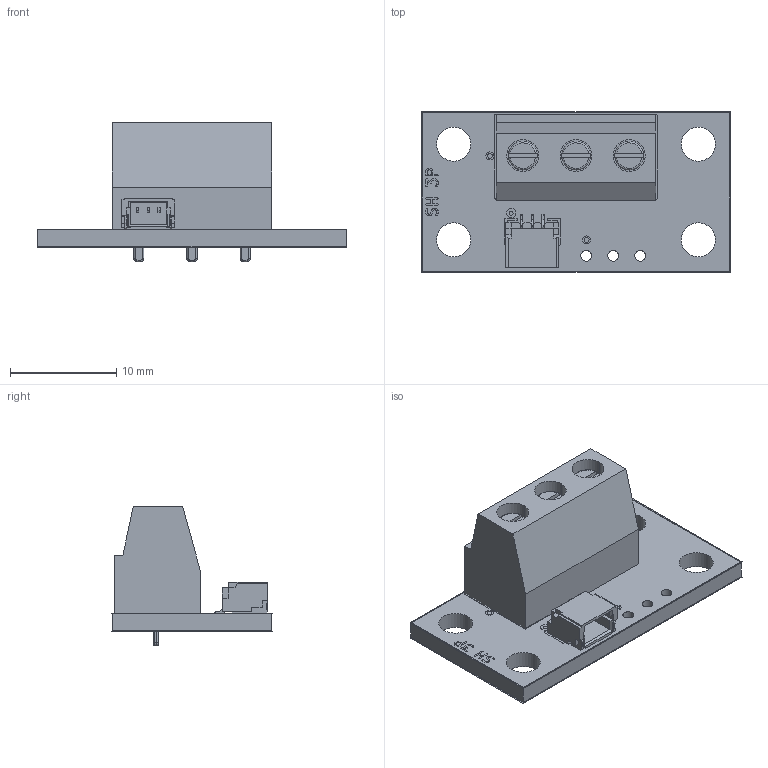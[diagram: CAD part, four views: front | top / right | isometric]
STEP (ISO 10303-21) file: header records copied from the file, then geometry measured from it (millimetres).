
FILE_DESCRIPTION(('FreeCAD Model'),'2;1');
FILE_NAME('Open CASCADE Shape Model','2023-12-02T20:03:09',(''),(''), 'Open CASCADE STEP processor 7.6','FreeCAD','Unknown');
FILE_SCHEMA(('AUTOMOTIVE_DESIGN { 1 0 10303 214 1 1 1 1 }'));
Length unit declared in the file: millimetre
Products named in the file (18): sh-3p-breakout-terminal; Local_CS_cc3a; Board_Geoms_cc3a; Pcb_cc3a; PCB_Sketch_cc3a; botSilks_517b; topSilks_5caf; Step_Models_cc3a; Top_cc3a; J2_9DD1A177-DC4A-4C6F-9662-4EE6C33F1CB4_13783cd18217; CN1_SM03B-SRSS-TB(LF)(SN)007_232be0d53d6f; SM03B-SRSS-TB(LF)(SN); SM03B-SRSS-TB(LF)(SN)001; SM03B-SRSS-TB(LF)(SN)002; SM03B-SRSS-TB(LF)(SN)003; SM03B-SRSS-TB(LF)(SN)004; SM03B-SRSS-TB(LF)(SN)005; SM03B-SRSS-TB(LF)(SN)006
Assembly tree (17 placements, depth 5):
  sh-3p-breakout-terminal
    Local_CS_cc3a
    Board_Geoms_cc3a
      Pcb_cc3a
      PCB_Sketch_cc3a
      botSilks_517b
      topSilks_5caf
    Step_Models_cc3a
      Top_cc3a
        J2_9DD1A177-DC4A-4C6F-9662-4EE6C33F1CB4_13783cd18217
        CN1_SM03B-SRSS-TB(LF)(SN)007_232be0d53d6f
          SM03B-SRSS-TB(LF)(SN)
          SM03B-SRSS-TB(LF)(SN)001
          SM03B-SRSS-TB(LF)(SN)002
          SM03B-SRSS-TB(LF)(SN)003
          SM03B-SRSS-TB(LF)(SN)004
          SM03B-SRSS-TB(LF)(SN)005
          SM03B-SRSS-TB(LF)(SN)006
Bounding box: 29.1 x 15.1 x 13.1 mm (x, y, z)
Volume: 1578.4 mm3; surface area: 2255.5 mm2
Topology: 9 solids, 31 shells, 387 faces, 1992 edges, 1662 vertices
Faces by surface type: plane 280, cylinder 86, bspline 21
Full cylindrical faces by diameter (mm): 1.02 x3, 1.3 x3, 3.2 x4
Entity records: 21273 total; most frequent: CARTESIAN_POINT 4635, ORIENTED_EDGE 2956, DIRECTION 2917, EDGE_CURVE 1988, LINE 1769, VECTOR 1769, VERTEX_POINT 1654, AXIS2_PLACEMENT_3D 574
